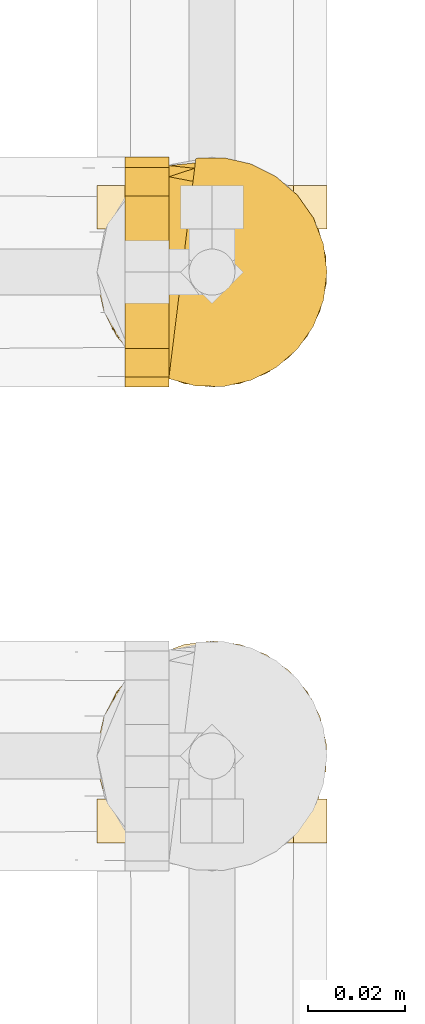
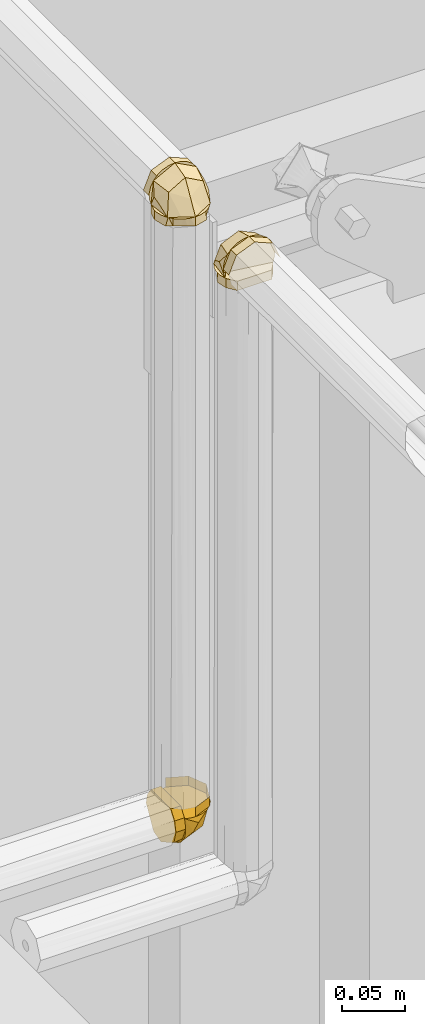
# One storey, part 379 of 652: 3 coverings.
"""IFC2X3 building model written with IfcOpenShell, lengths in millimetres."""

from ifc_helpers import new_model, entity, si_unit, converted_unit, direction, frame, origin, place, context, subcontext, project, spatial, face_set, surface_model, material, type_object, element, save


model = new_model("IFC2X3")

# Units and contexts
model_context = context("Model", 3, precision=0.01, world=frame((0.0, 0.0, 308426.39999999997)), true_north=direction((6.123233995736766e-17, 1.0)))
plan_context = context("Plan", 3, precision=0.01, world=frame((0.0, 0.0, 308426.39999999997)), true_north=direction((6.123233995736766e-17, 1.0)))
body_context = subcontext(model_context, "Body", "Model", "MODEL_VIEW")
ifc_project = project(units=[si_unit("LENGTHUNIT", "METRE", prefix="MILLI"), si_unit("AREAUNIT", "SQUARE_METRE"), si_unit("VOLUMEUNIT", "CUBIC_METRE"), converted_unit("PLANEANGLEUNIT", "DEGREE", entity("IfcPlaneAngleMeasure", 0.017453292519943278), si_unit("PLANEANGLEUNIT", "RADIAN"), dimensions=[0, 0, 0, 0, 0, 0, 0])], contexts=[model_context, plan_context])

# Site, building, storey
site_placement = place(None, origin())
site = spatial("IfcSite", under=ifc_project, at=site_placement, Name="Default", CompositionType="ELEMENT")
building_placement = place(site_placement, origin())
building = spatial("IfcBuilding", under=site, at=building_placement, CompositionType="ELEMENT")
storey_placement = place(building_placement, frame((0.0, 0.0, 1730.6999999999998)))
storey = spatial("IfcBuildingStorey", under=building, at=storey_placement, Name="EG_Produktion_FFB", CompositionType="ELEMENT", Elevation=1730.6999999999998)

# Coverings
ifc_material = material(Name="Dämmung - Armaflex-Schlauch")
covering_type = type_object("IfcCoveringType", Name="Rohrdämmung außen:Armaflex-Schlauch", PredefinedType="INSULATION")
covering_1_placement = place(storey_placement, frame((46954.79588921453, 60774.64222776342, 3280.6110791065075)))
element("IfcCovering", 1, at=covering_1_placement, inside=storey, type_object=covering_type, material=ifc_material, Name="Rohrdämmung außen:Armaflex-Schlauch", ObjectType="Rohrdämmung außen:Armaflex-Schlauch", PredefinedType="INSULATION", context=body_context, shape_type="SurfaceModel", body=[
    surface_model("IfcFaceBasedSurfaceModel", [(3.3372686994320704, 34.28827223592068, 10.458420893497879), (48.88520354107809, 34.28827223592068, 16.054796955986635), (48.99253247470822, 34.28827223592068, 21.84951324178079), (47.69387779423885, 34.28827223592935, 27.4978539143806), (45.06649381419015, 34.28827223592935, 32.66381072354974), (41.266678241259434, 34.28827223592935, 37.04007144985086), (36.52047434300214, 34.28827223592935, 40.3663012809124), (31.11022409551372, 34.28827223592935, 42.444629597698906), (25.35777223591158, 34.28827223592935, 43.15142089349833), (19.605320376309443, 34.28827223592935, 42.444629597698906), (14.19507012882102, 34.28827223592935, 40.3663012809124), (9.448866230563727, 34.28827223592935, 37.04007144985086), (5.649050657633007, 34.28827223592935, 32.66381072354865), (3.0216666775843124, 34.28827223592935, 27.497853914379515), (1.7230119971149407, 34.28827223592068, 21.84951324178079), (1.8303409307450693, 34.28827223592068, 16.054796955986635), (47.37827577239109, 34.28827223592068, 10.458420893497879), (48.88520354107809, 28.691896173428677, 10.458420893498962), (48.99253247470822, 22.897179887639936, 10.458420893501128), (47.69387779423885, 17.248839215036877, 10.45842089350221), (45.06649381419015, 12.082882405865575, 10.458420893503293), (41.266678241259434, 7.706621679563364, 10.458420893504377), (36.52047434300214, 4.380391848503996, 10.458420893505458), (31.11022409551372, 2.3020635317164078, 10.458420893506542), (25.35777223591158, 1.5952722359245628, 10.458420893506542), (19.605320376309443, 2.3020635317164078, 10.458420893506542), (14.19507012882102, 4.380391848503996, 10.458420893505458), (9.448866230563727, 7.706621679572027, 10.458420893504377), (5.649050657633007, 12.082882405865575, 10.458420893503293), (3.0216666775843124, 17.248839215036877, 10.45842089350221), (1.7230119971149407, 22.897179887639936, 10.458420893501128), (1.8303409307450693, 28.691896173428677, 10.458420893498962), (2.998324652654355, 19.381856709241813, 18.58073913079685), (9.500253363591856, 16.865731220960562, 30.59512206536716), (4.481955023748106, 23.31650026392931, 10.458560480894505), (15.616159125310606, 34.28792360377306, 37.968509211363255), (25.359750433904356, 17.940084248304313, 38.77136718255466), (15.504538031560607, 6.8384362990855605, 10.458560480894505), (25.359750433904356, 9.140621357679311, 23.526367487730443), (2.137912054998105, 27.20928590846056, 22.523521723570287), (4.4912567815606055, 34.28792360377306, 21.561371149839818), (47.716525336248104, 19.381856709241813, 18.58073913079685), (48.576937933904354, 27.20928590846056, 22.523521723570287), (41.214596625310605, 16.865731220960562, 30.59512206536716), (35.098690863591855, 34.28792360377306, 37.968509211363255), (46.237545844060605, 23.31650026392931, 10.458560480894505), (35.098690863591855, 6.777974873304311, 10.458560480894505), (25.359750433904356, 9.768490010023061, 24.614673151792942), (46.22359320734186, 34.28792360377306, 21.561371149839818), (1.5937592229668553, 43.30597780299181, 19.388829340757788), (1.5937592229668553, 34.28792360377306, 19.388829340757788), (8.556124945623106, 34.28792360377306, 36.19129210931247), (8.556124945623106, 43.30597780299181, 36.19129210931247), (25.359750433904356, 34.28792360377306, 43.1513323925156), (25.359750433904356, 43.30597780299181, 43.1513323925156), (42.158725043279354, 34.28792360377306, 36.19129210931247), (42.158725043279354, 43.30597780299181, 36.19129210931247), (49.121090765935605, 34.28792360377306, 19.388829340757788), (49.121090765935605, 43.30597780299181, 19.388829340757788), (46.14995973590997, 20.21304007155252, 1.4386708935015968), (43.179647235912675, 15.068307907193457, 1.4386708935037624), (40.20933473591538, 9.92357574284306, 1.4386708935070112), (37.239022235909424, 4.778843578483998, 1.4386708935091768), (31.29839723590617, 3.1870579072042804, 1.4386708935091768), (25.35777223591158, 1.5952722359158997, 1.4386708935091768), (20.21304007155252, 4.565584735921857, 1.4386708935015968), (15.068307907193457, 7.535897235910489, 1.4386708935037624), (9.92357574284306, 10.506209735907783, 1.4386708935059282), (4.778843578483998, 13.47652223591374, 1.4386708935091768), (3.1870579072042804, 19.417147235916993, 1.4386708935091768), (1.5952722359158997, 25.35777223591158, 1.4386708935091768), (2.6431209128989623, 30.23645211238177, 1.4386708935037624), (3.690969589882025, 35.115131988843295, 1.4386708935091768), (6.64968879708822, 39.133276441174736, 1.4386708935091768), (9.608408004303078, 43.15142089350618, 1.4386708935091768), (41.107136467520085, 43.15142089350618, 1.4386708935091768), (44.06585567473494, 39.133276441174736, 1.4386708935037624), (47.024574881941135, 35.115131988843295, 1.4386708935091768), (48.0724235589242, 30.23645211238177, 1.4386708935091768), (49.12027223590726, 25.35777223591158, 1.4386708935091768), (42.160397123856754, 8.55514734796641, 10.458420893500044), (43.90036590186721, 12.755803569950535, 10.458420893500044), (45.64033467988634, 16.956459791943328, 10.458420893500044), (47.3803034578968, 21.157116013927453, 10.458420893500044), (49.12027223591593, 25.35777223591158, 10.458420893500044), (48.0724235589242, 30.23645211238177, 10.458420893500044), (47.024574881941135, 35.115131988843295, 10.458420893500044), (43.985875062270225, 39.24189562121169, 10.458420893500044), (41.10713646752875, 43.15142089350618, 10.458420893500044), (9.608408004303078, 43.15142089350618, 10.458420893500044), (6.64968879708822, 39.133276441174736, 10.458420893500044), (3.690969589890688, 35.115131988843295, 10.458420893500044), (2.614795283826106, 30.104570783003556, 10.458420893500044), (1.5952722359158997, 25.35777223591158, 10.458420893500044), (3.3352410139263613, 21.157116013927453, 10.458420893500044), (5.075209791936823, 16.956459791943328, 10.458420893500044), (6.815178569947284, 12.755803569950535, 10.458420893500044), (8.55514734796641, 8.55514734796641, 10.458420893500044), (12.755803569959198, 6.815178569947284, 10.458420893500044), (16.956459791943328, 5.075209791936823, 10.458420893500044), (21.157116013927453, 3.3352410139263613, 10.458420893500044), (25.35777223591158, 1.5952722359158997, 10.458420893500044), (29.558428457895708, 3.3352410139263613, 10.458420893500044), (33.759084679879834, 5.075209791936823, 10.458420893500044), (37.95974090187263, 6.815178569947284, 10.458420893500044)], [face_set([[[0, 1, 2, 3, 4, 5, 6, 7, 8, 9, 10, 11, 12, 13, 14, 15]], [[16, 17, 18, 19, 20, 21, 22, 23, 24, 25, 26, 27, 28, 29, 30, 31]], [[32, 28, 33]], [[32, 34, 28]], [[33, 35, 12]], [[35, 33, 36]], [[36, 8, 35]], [[33, 37, 38]], [[39, 12, 40]], [[32, 33, 39]], [[34, 32, 0]], [[12, 39, 33]], [[38, 36, 33]], [[0, 32, 39]], [[33, 28, 37]], [[37, 24, 38]], [[0, 39, 40]], [[41, 16, 42]], [[43, 44, 36]], [[20, 45, 41]], [[46, 43, 47]], [[44, 8, 36]], [[4, 43, 42]], [[44, 43, 4]], [[42, 16, 48]], [[20, 43, 46]], [[16, 41, 45]], [[43, 41, 42]], [[43, 36, 47]], [[47, 24, 46]], [[20, 41, 43]], [[48, 4, 42]]]), face_set([[[49, 50, 51, 52]], [[53, 54, 52, 51]], [[54, 53, 55, 56]], [[57, 58, 56, 55]]]), face_set([[[59, 60, 61, 62, 63, 64, 65, 66, 67, 68, 69, 70, 71, 72, 73, 74, 75, 76, 77, 78, 79]], [[80, 81, 82, 83, 84, 85, 86, 87, 88, 89, 90, 91, 92, 93, 94, 95, 96, 97, 98, 99, 100, 101, 102, 103, 104]], [[75, 74, 89, 88]], [[71, 70, 93, 92, 91, 72]], [[73, 72, 91, 90, 89, 74]], [[96, 67, 97]], [[64, 100, 65]], [[100, 99, 65]], [[69, 95, 94]], [[94, 93, 70]], [[67, 96, 68]], [[66, 99, 98]], [[64, 101, 100]], [[99, 66, 65]], [[70, 69, 94]], [[98, 97, 67]], [[96, 95, 68]], [[69, 68, 95]], [[66, 98, 67]], [[104, 61, 80]], [[79, 83, 59]], [[83, 82, 59]], [[63, 103, 102]], [[102, 101, 64]], [[61, 104, 62]], [[60, 82, 81]], [[79, 84, 83]], [[82, 60, 59]], [[64, 63, 102]], [[81, 80, 61]], [[104, 103, 62]], [[63, 62, 103]], [[60, 81, 61]], [[76, 75, 88, 87, 86, 77]], [[78, 77, 86, 85, 84, 79]]])]),
])
covering_2_placement = place(storey_placement, frame((46960.764740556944, 60774.64222776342, 2674.6422277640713)))
element("IfcCovering", 2, at=covering_2_placement, inside=storey, type_object=covering_type, material=ifc_material, Name="Rohrdämmung außen:Armaflex-Schlauch", ObjectType="Rohrdämmung außen:Armaflex-Schlauch", PredefinedType="INSULATION", context=body_context, shape_type="SurfaceModel", body=[
    surface_model("IfcFaceBasedSurfaceModel", [(10.458420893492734, 3.3372686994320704, 34.28827223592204), (16.054796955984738, 1.8303409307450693, 34.28827223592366), (21.84951324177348, 1.7230119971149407, 34.288272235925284), (27.497853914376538, 3.0216666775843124, 34.288272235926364), (32.66381072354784, 5.649050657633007, 34.28827223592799), (37.04007144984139, 9.448866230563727, 34.28827223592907), (40.36630128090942, 14.19507012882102, 34.28827223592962), (42.44462959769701, 19.605320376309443, 34.2882722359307), (43.151420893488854, 25.35777223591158, 34.2882722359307), (42.44462959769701, 31.11022409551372, 34.2882722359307), (40.36630128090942, 36.52047434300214, 34.28827223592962), (37.04007144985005, 41.266678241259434, 34.28827223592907), (32.66381072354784, 45.06649381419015, 34.28827223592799), (27.497853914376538, 47.69387779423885, 34.288272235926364), (21.84951324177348, 48.99253247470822, 34.288272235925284), (16.054796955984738, 48.88520354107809, 34.28827223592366), (10.458420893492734, 47.37827577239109, 34.28827223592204), (10.458420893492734, 48.88520354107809, 28.691896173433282), (10.458420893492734, 48.99253247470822, 22.897179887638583), (10.458420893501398, 47.69387779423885, 17.248839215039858), (10.458420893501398, 45.06649381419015, 12.08288240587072), (10.458420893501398, 41.266678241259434, 7.706621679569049), (10.458420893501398, 36.52047434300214, 4.3803918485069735), (10.458420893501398, 31.11022409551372, 2.3020635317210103), (10.458420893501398, 25.35777223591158, 1.5952722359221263), (10.458420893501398, 19.605320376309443, 2.3020635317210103), (10.458420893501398, 14.19507012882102, 4.3803918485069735), (10.458420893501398, 9.448866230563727, 7.706621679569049), (10.458420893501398, 5.649050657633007, 12.08288240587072), (10.458420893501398, 3.0216666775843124, 17.248839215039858), (10.458420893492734, 1.7230119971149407, 22.897179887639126), (10.458420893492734, 1.8303409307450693, 28.691896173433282), (18.58164616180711, 2.9968103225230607, 19.38129671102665), (30.594866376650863, 9.498739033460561, 16.867205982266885), (10.456560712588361, 4.480440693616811, 23.314486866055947), (37.96650944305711, 15.619295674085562, 34.28823564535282), (38.77111149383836, 25.358236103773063, 17.941849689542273), (10.456560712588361, 15.503023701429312, 6.839039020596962), (23.525530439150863, 25.358236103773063, 9.14006135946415), (22.525591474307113, 2.141048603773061, 27.20814455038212), (21.56285954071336, 4.494393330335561, 34.28823564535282), (18.58164616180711, 47.71501100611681, 19.38129671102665), (22.525591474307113, 48.57542360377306, 27.20814455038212), (30.594866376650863, 41.21773317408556, 16.867205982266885), (37.96650944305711, 35.09717653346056, 34.28823564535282), (10.456560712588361, 46.23603151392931, 23.314486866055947), (10.456560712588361, 35.09717653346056, 6.778286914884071), (24.613836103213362, 25.358236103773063, 9.768511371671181), (21.56285954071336, 46.22207887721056, 34.28823564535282), (19.390899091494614, 1.5968957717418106, 43.308033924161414), (19.390899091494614, 1.5968957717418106, 34.28823564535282), (36.18987370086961, 8.55461061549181, 34.28823564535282), (36.18987370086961, 8.55461061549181, 43.308033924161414), (43.15223942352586, 25.358236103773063, 34.28823564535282), (43.15223942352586, 25.358236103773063, 43.308033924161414), (36.18987370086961, 42.161861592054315, 34.28823564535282), (36.18987370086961, 42.161861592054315, 43.308033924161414), (19.390899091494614, 49.11957643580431, 34.28823564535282), (19.390899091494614, 49.11957643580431, 43.308033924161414), (1.4386708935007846, 46.14995973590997, 20.213040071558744), (1.4386708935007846, 43.179647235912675, 15.06830790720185), (1.4386708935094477, 40.209334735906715, 9.923575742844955), (1.4386708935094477, 37.239022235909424, 4.7788435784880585), (1.4386708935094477, 31.29839723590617, 3.1870579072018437), (1.4386708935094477, 25.35777223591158, 1.595272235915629), (1.4386708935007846, 20.21304007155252, 4.565584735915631), (1.4386708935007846, 15.068307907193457, 7.535897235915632), (1.4386708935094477, 9.92357574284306, 10.506209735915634), (1.4386708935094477, 4.778843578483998, 13.476522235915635), (1.4386708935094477, 3.1870579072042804, 19.41714723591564), (1.4386708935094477, 1.5952722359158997, 25.35777223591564), (1.4386708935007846, 2.6431209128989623, 30.23645211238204), (1.4386708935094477, 3.690969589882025, 35.11513198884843), (1.4386708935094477, 6.64968879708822, 39.13327644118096), (1.4386708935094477, 9.608408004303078, 43.15142089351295), (1.4386708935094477, 41.107136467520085, 43.15142089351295), (1.4386708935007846, 44.06585567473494, 39.13327644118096), (1.4386708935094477, 47.024574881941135, 35.11513198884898), (1.4386708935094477, 48.0724235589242, 30.23645211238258), (1.4386708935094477, 49.12027223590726, 25.35777223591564), (10.458420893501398, 42.160397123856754, 8.55514734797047), (10.458420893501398, 43.90036590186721, 12.755803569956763), (10.458420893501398, 45.64033467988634, 16.956459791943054), (10.458420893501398, 47.3803034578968, 21.15711601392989), (10.458420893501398, 49.12027223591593, 25.35777223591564), (10.458420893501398, 48.0724235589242, 30.23645211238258), (10.458420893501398, 47.024574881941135, 35.11513198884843), (10.458420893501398, 43.985875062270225, 39.241895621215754), (10.458420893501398, 41.10713646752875, 43.15142089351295), (10.458420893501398, 9.608408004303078, 43.15142089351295), (10.458420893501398, 6.64968879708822, 39.13327644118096), (10.458420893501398, 3.690969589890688, 35.11513198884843), (10.458420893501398, 2.614795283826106, 30.10457078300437), (10.458420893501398, 1.5952722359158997, 25.35777223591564), (10.458420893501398, 3.3352410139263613, 21.157116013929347), (10.458420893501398, 5.075209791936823, 16.956459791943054), (10.458420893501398, 6.815178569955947, 12.755803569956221), (10.458420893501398, 8.55514734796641, 8.555147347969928), (10.458420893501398, 12.755803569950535, 6.8151785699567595), (10.458420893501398, 16.956459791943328, 5.075209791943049), (10.458420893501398, 21.157116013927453, 3.335241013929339), (10.458420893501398, 25.35777223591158, 1.595272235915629), (10.458420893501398, 29.558428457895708, 3.335241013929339), (10.458420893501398, 33.759084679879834, 5.075209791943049), (10.458420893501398, 37.95974090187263, 6.8151785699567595)], [face_set([[[0, 1, 2, 3, 4, 5, 6, 7, 8, 9, 10, 11, 12, 13, 14, 15]], [[16, 17, 18, 19, 20, 21, 22, 23, 24, 25, 26, 27, 28, 29, 30, 31]], [[32, 28, 33]], [[32, 34, 28]], [[33, 35, 4]], [[35, 33, 36]], [[36, 8, 35]], [[33, 37, 38]], [[39, 4, 40]], [[32, 33, 39]], [[34, 32, 0]], [[4, 39, 33]], [[38, 36, 33]], [[0, 32, 39]], [[33, 28, 37]], [[37, 24, 38]], [[0, 39, 40]], [[41, 16, 42]], [[43, 44, 36]], [[20, 45, 41]], [[46, 43, 47]], [[44, 8, 36]], [[12, 43, 42]], [[44, 43, 12]], [[42, 16, 48]], [[20, 43, 46]], [[16, 41, 45]], [[43, 41, 42]], [[43, 36, 47]], [[47, 24, 46]], [[20, 41, 43]], [[48, 12, 42]]]), face_set([[[49, 50, 51, 52]], [[53, 54, 52, 51]], [[54, 53, 55, 56]], [[57, 58, 56, 55]]]), face_set([[[59, 60, 61, 62, 63, 64, 65, 66, 67, 68, 69, 70, 71, 72, 73, 74, 75, 76, 77, 78, 79]], [[80, 81, 82, 83, 84, 85, 86, 87, 88, 89, 90, 91, 92, 93, 94, 95, 96, 97, 98, 99, 100, 101, 102, 103, 104]], [[75, 74, 89, 88]], [[71, 70, 93, 92, 91, 72]], [[73, 72, 91, 90, 89, 74]], [[96, 67, 97]], [[64, 100, 65]], [[100, 99, 65]], [[69, 95, 94]], [[94, 93, 70]], [[67, 96, 68]], [[66, 99, 98]], [[64, 101, 100]], [[99, 66, 65]], [[70, 69, 94]], [[98, 97, 67]], [[96, 95, 68]], [[69, 68, 95]], [[66, 98, 67]], [[104, 61, 80]], [[79, 83, 59]], [[83, 82, 59]], [[63, 103, 102]], [[102, 101, 64]], [[61, 104, 62]], [[60, 82, 81]], [[79, 84, 83]], [[82, 60, 59]], [[64, 63, 102]], [[81, 80, 61]], [[104, 103, 62]], [[63, 62, 103]], [[60, 81, 61]], [[76, 75, 88, 87, 86, 77]], [[78, 77, 86, 85, 84, 79]]])]),
])
covering_3_placement = place(storey_placement, frame((46954.79588921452, 60680.61107910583, 3325.357772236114)))
element("IfcCovering", 3, at=covering_3_placement, inside=storey, type_object=covering_type, material=ifc_material, Name="Rohrdämmung außen:Armaflex-Schlauch", ObjectType="Rohrdämmung außen:Armaflex-Schlauch", PredefinedType="INSULATION", context=body_context, shape_type="SurfaceModel", body=[
    surface_model("IfcFaceBasedSurfaceModel", [(47.37827577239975, 10.458420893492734, -34.288272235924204), (48.88520354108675, 10.458420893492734, -28.691896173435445), (48.99253247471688, 10.458420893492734, -22.89717988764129), (47.69387779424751, 10.458420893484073, -17.248839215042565), (45.066493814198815, 10.458420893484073, -12.082882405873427), (41.266678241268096, 10.458420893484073, -7.706621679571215), (36.520474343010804, 10.458420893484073, -4.380391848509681), (31.110224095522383, 10.458420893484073, -2.3020635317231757), (25.357772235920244, 10.458420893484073, -1.5952722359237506), (19.605320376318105, 10.458420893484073, -2.3020635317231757), (14.195070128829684, 10.458420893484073, -4.380391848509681), (9.44886623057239, 10.458420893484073, -7.706621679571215), (5.649050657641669, 10.458420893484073, -12.082882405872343), (3.0216666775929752, 10.458420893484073, -17.24883921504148), (1.7230119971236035, 10.458420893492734, -22.89717988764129), (1.8303409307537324, 10.458420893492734, -28.691896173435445), (3.3372686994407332, 10.458420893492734, -34.288272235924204), (1.8303409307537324, 16.054796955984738, -34.28827223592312), (1.7230119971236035, 21.84951324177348, -34.28827223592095), (3.0216666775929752, 27.497853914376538, -34.28827223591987), (5.649050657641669, 32.66381072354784, -34.28827223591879), (9.44886623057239, 37.04007144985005, -34.2882722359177), (14.195070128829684, 40.36630128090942, -34.28827223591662), (19.605320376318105, 42.44462959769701, -34.288272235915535), (25.357772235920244, 43.151420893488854, -34.288272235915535), (31.110224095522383, 42.44462959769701, -34.288272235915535), (36.520474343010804, 40.36630128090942, -34.28827223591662), (41.266678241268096, 37.04007144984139, -34.2882722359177), (45.066493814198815, 32.66381072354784, -34.28827223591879), (47.69387779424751, 27.497853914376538, -34.28827223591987), (48.99253247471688, 21.84951324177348, -34.28827223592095), (48.88520354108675, 16.054796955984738, -34.28827223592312), (47.716525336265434, 25.367216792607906, -26.165953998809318), (41.214596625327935, 27.878691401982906, -14.151571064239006), (46.237545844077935, 21.432573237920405, -34.28813264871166), (35.098690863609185, 10.456499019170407, -6.778183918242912), (25.359750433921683, 26.804338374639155, -5.975325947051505), (35.21031195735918, 37.90598632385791, -34.28813264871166), (25.359750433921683, 35.60845214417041, -21.220325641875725), (48.576937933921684, 17.539787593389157, -22.22317140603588), (46.22359320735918, 10.456499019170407, -23.18532197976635), (2.9983246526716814, 25.367216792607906, -26.165953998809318), (2.1379120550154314, 17.539787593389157, -22.22317140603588), (9.50025336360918, 27.878691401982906, -14.151571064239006), (15.616159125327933, 10.456499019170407, -6.778183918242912), (4.4819550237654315, 21.432573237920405, -34.28813264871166), (15.616159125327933, 37.96644774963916, -34.28813264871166), (25.359750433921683, 34.97593261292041, -20.132019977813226), (4.491256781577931, 10.456499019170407, -23.18532197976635), (49.121090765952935, 1.4384448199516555, -25.35786378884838), (49.121090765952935, 10.456499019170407, -25.35786378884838), (42.158725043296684, 10.456499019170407, -8.555401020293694), (42.158725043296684, 1.4384448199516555, -8.555401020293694), (25.359750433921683, 10.456499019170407, -1.595360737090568), (25.359750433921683, 1.4384448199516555, -1.595360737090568), (8.556124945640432, 10.456499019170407, -8.555401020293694), (8.556124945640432, 1.4384448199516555, -8.555401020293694), (1.5937592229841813, 10.456499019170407, -25.35786378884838), (1.5937592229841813, 1.4384448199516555, -25.35786378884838), (4.565584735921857, 24.5336530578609, -43.30802223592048), (7.5358972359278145, 29.67838522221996, -43.308022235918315), (10.50620973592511, 34.82311738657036, -43.30802223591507), (13.476522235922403, 39.96784955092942, -43.3080222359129), (19.417147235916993, 41.55963522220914, -43.3080222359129), (25.357772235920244, 43.151420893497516, -43.3080222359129), (30.502504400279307, 40.18110839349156, -43.30802223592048), (35.6472365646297, 37.210795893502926, -43.308022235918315), (40.79196872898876, 34.24048339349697, -43.308022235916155), (45.936700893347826, 31.270170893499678, -43.3080222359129), (47.528486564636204, 25.329545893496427, -43.3080222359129), (49.12027223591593, 19.388920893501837, -43.3080222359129), (48.07242355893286, 14.51024101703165, -43.308022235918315), (47.024574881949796, 9.631561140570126, -43.3080222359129), (44.06585567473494, 5.613416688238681, -43.3080222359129), (41.10713646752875, 1.5952722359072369, -43.3080222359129), (9.608408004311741, 1.5952722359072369, -43.3080222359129), (6.649688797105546, 5.613416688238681, -43.308022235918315), (3.690969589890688, 9.631561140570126, -43.3080222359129), (2.643120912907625, 14.51024101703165, -43.3080222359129), (1.5952722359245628, 19.388920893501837, -43.3080222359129), (8.55514734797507, 36.19154578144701, -34.28827223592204), (6.81517856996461, 31.990889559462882, -34.28827223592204), (5.075209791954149, 27.79023333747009, -34.28827223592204), (3.335241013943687, 23.589577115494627, -34.28827223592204), (1.5952722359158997, 19.388920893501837, -34.28827223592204), (2.643120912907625, 14.51024101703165, -34.28827223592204), (3.690969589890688, 9.631561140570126, -34.28827223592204), (6.729669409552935, 5.504797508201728, -34.28827223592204), (9.608408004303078, 1.5952722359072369, -34.28827223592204), (41.10713646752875, 1.5952722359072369, -34.28827223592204), (44.06585567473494, 5.613416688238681, -34.28827223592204), (47.024574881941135, 9.631561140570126, -34.28827223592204), (48.10074918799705, 14.642122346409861, -34.28827223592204), (49.12027223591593, 19.388920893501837, -34.28827223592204), (47.3803034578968, 23.589577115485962, -34.28827223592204), (45.64033467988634, 27.79023333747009, -34.28827223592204), (43.90036590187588, 31.990889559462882, -34.28827223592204), (42.160397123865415, 36.19154578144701, -34.28827223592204), (37.95974090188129, 37.93151455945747, -34.28827223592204), (33.759084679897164, 39.671483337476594, -34.28827223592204), (29.55842845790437, 41.41145211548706, -34.28827223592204), (25.357772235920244, 43.151420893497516, -34.28827223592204), (21.157116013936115, 41.41145211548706, -34.28827223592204), (16.956459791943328, 39.671483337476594, -34.28827223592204), (12.755803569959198, 37.93151455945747, -34.28827223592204)], [face_set([[[0, 1, 2, 3, 4, 5, 6, 7, 8, 9, 10, 11, 12, 13, 14, 15]], [[16, 17, 18, 19, 20, 21, 22, 23, 24, 25, 26, 27, 28, 29, 30, 31]], [[32, 28, 33]], [[32, 34, 28]], [[33, 35, 4]], [[35, 33, 36]], [[36, 8, 35]], [[33, 37, 38]], [[39, 4, 40]], [[32, 33, 39]], [[34, 32, 0]], [[4, 39, 33]], [[38, 36, 33]], [[0, 32, 39]], [[33, 28, 37]], [[37, 24, 38]], [[0, 39, 40]], [[41, 16, 42]], [[43, 44, 36]], [[20, 45, 41]], [[46, 43, 47]], [[44, 8, 36]], [[12, 43, 42]], [[44, 43, 12]], [[42, 16, 48]], [[20, 43, 46]], [[16, 41, 45]], [[43, 41, 42]], [[43, 36, 47]], [[47, 24, 46]], [[20, 41, 43]], [[48, 12, 42]]]), face_set([[[49, 50, 51, 52]], [[53, 54, 52, 51]], [[54, 53, 55, 56]], [[57, 58, 56, 55]]]), face_set([[[59, 60, 61, 62, 63, 64, 65, 66, 67, 68, 69, 70, 71, 72, 73, 74, 75, 76, 77, 78, 79]], [[80, 81, 82, 83, 84, 85, 86, 87, 88, 89, 90, 91, 92, 93, 94, 95, 96, 97, 98, 99, 100, 101, 102, 103, 104]], [[75, 74, 89, 88]], [[71, 70, 93, 92, 91, 72]], [[73, 72, 91, 90, 89, 74]], [[96, 67, 97]], [[64, 100, 65]], [[100, 99, 65]], [[69, 95, 94]], [[94, 93, 70]], [[67, 96, 68]], [[66, 99, 98]], [[64, 101, 100]], [[99, 66, 65]], [[70, 69, 94]], [[98, 97, 67]], [[96, 95, 68]], [[69, 68, 95]], [[66, 98, 67]], [[104, 61, 80]], [[79, 83, 59]], [[83, 82, 59]], [[63, 103, 102]], [[102, 101, 64]], [[61, 104, 62]], [[60, 82, 81]], [[79, 84, 83]], [[82, 60, 59]], [[64, 63, 102]], [[81, 80, 61]], [[104, 103, 62]], [[63, 62, 103]], [[60, 81, 61]], [[76, 75, 88, 87, 86, 77]], [[78, 77, 86, 85, 84, 79]]])]),
])

save(model, "model.ifc")
